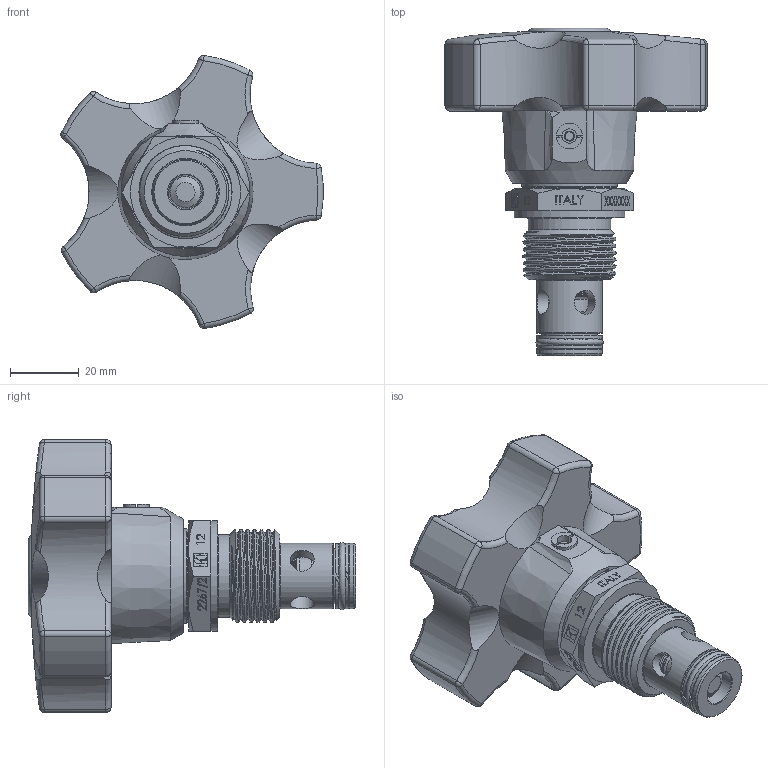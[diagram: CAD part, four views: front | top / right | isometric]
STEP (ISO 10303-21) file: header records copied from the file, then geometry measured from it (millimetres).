
FILE_DESCRIPTION (( 'STEP AP214' ), '1' );
FILE_NAME ('2267-2-12 VOLANTINO ABS.STEP', '2025-10-29T16:03:36', ( '' ), ( '' ), 'SwSTEP 2.0', 'SolidWorks 2025', '' );
FILE_SCHEMA (( 'AUTOMOTIVE_DESIGN' ));
Length unit declared in the file: millimetre
Products named in the file (16): 2267-2-12 VOLANTINO ABS; INSERTO FILETTATO 257-1.005.03-38; VOLANTINO DI MANOVRA 257-1.005.00-12; CORPO CARTUCCIA FILETTATA 2267-2.101.00-12; DISCO FASCETTA 257-1.004.00-12; ANELLO ANTI ESTRUSIONE 267-2.022.00-12; VITE TESTA BOMBATA 2257-2.006.00-12; GRANO DI BLOCCAGGIO M5x8_Tipo18; INSERTO ESAGONALE 257-1.005.02-12; CAPPUCCIO VOLANTINO 257-2.007.00-14_Tipo14; SPILLO DI REGOLAZIONE 2267-2.002.00-12; OR 2062; ANELLO DI FERMO 257-1.003.00-12; BK 2043; ASSIEME VOLANTINO 257-1.005.00-12; OR 2043
Assembly tree (16 placements, depth 3):
  2267-2-12 VOLANTINO ABS
    BK 2043
    OR 2043
    CORPO CARTUCCIA FILETTATA 2267-2.101.00-12
    SPILLO DI REGOLAZIONE 2267-2.002.00-12
    OR 2062
    GRANO DI BLOCCAGGIO M5x8_Tipo18
    ANELLO ANTI ESTRUSIONE 267-2.022.00-12  x2
    ANELLO DI FERMO 257-1.003.00-12
    DISCO FASCETTA 257-1.004.00-12
    CAPPUCCIO VOLANTINO 257-2.007.00-14_Tipo14
    ASSIEME VOLANTINO 257-1.005.00-12
      INSERTO ESAGONALE 257-1.005.02-12
      VOLANTINO DI MANOVRA 257-1.005.00-12
      INSERTO FILETTATO 257-1.005.03-38
    VITE TESTA BOMBATA 2257-2.006.00-12
Bounding box: 76.1 x 95 x 79.26 mm (x, y, z)
Volume: 114961.4 mm3; surface area: 40785.7 mm2
Topology: 15 solids, 15 shells, 1040 faces, 2689 edges, 1755 vertices
Faces by surface type: plane 532, cylinder 217, cone 174, bspline 59, torus 36, sphere 22
Full cylindrical faces by diameter (mm): 2.5 x1, 3.3 x1, 4 x1, 4.2 x1, 5 x1, 6.4 x1, 6.8 x1, 7 x4, 10 x3, 10.5 x1, 10.9 x1, 11.4 x1, 11.5 x2, 12 x2, 13.5 x1, 14 x2, 14.7 x1, 15.6 x1, 16 x1, 17.5 x1, 19 x2, 22 x1, 22.4 x1, 23 x1, 24 x1, 26 x1, 27 x1, 27.1 x1, 27.6 x1, 28.5 x1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
Entity records: 36843 total; most frequent: CARTESIAN_POINT 12505, DIRECTION 4777, ORIENTED_EDGE 4766, EDGE_CURVE 2383, VERTEX_POINT 1685, AXIS2_PLACEMENT_3D 1683, LINE 1411, VECTOR 1411
